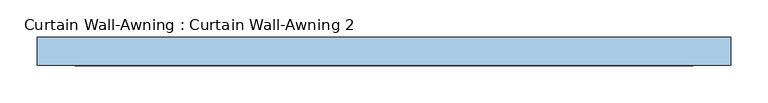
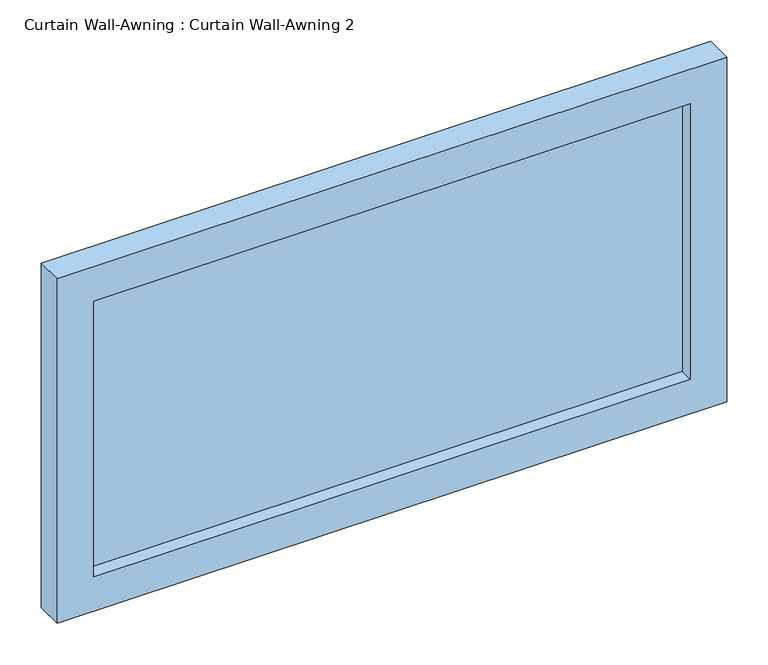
"""IFC4 building model written with IfcOpenShell, lengths in millimetres: window geometry, Curtain Wall-Awning : Curtain Wall-Awning 2."""

from ifc_helpers import new_model, si_unit, frame, origin, place, context, project, spatial, polyline, outline, extrude, source, transform, mapped, element, save


def curtain_wall_awning_curtain_wall_awning_2_4226a363(model_context):
    return source(origin(), model_context, "Body", "SweptSolid", [
        extrude(outline(polyline([(415.8124689, -19.05), (-415.8124689, -19.05), (-415.8124689, -6.35), (415.8124689, -6.35), (415.8124689, -19.05)])), frame((0.0, 0.0, 50.8), z_axis=(0.0, 0.0, 1.0), x_axis=(1.0, 0.0, 0.0)), (0.0, 0.0, 1.0), 406.2774401),
        extrude(outline(polyline([(507.8774401, -466.6124689), (0.0, -466.6124689), (0.0, 466.6124689), (507.8774401, 466.6124689), (507.8774401, -466.6124689)]), holes=[polyline([(457.0774401, -415.8124689), (457.0774401, 415.8124689), (50.8, 415.8124689), (50.8, -415.8124689), (457.0774401, -415.8124689)])]), frame((0.0, -38.1, 0.0), z_axis=(0.0, 1.0, 0.0), x_axis=(0.0, 0.0, 1.0)), (0.0, 0.0, 1.0), 38.1),
    ])


if __name__ == "__main__":
    model = new_model("IFC4")
    model_context = context("Model", 3, world=origin())
    ifc_project = project(units=[si_unit("LENGTHUNIT", "METRE", prefix="MILLI")], contexts=[model_context])
    site = spatial("IfcSite", under=ifc_project)
    building = spatial("IfcBuilding", under=site)
    placement = place(None, origin())
    curtain_wall_awning_curtain_wall_awning_2_shape = curtain_wall_awning_curtain_wall_awning_2_4226a363(model_context)
    element("IfcWindow", 1, ObjectType="Curtain Wall-Awning : Curtain Wall-Awning 2", at=placement, inside=building, context=model_context, shape_type="MappedRepresentation", body=[
        mapped(curtain_wall_awning_curtain_wall_awning_2_shape, transform((0.0, 0.0, 0.0), x_axis=(1.0, 0.0, 0.0), y_axis=(0.0, 1.0, 0.0), z_axis=(0.0, 0.0, 1.0))),
    ])
    save(model, "model.ifc")
